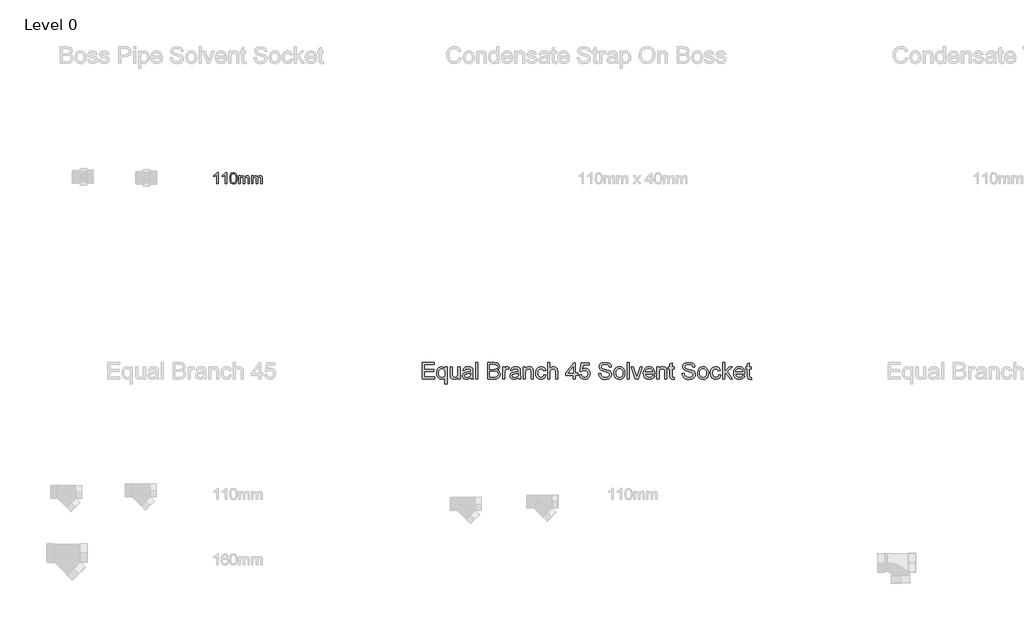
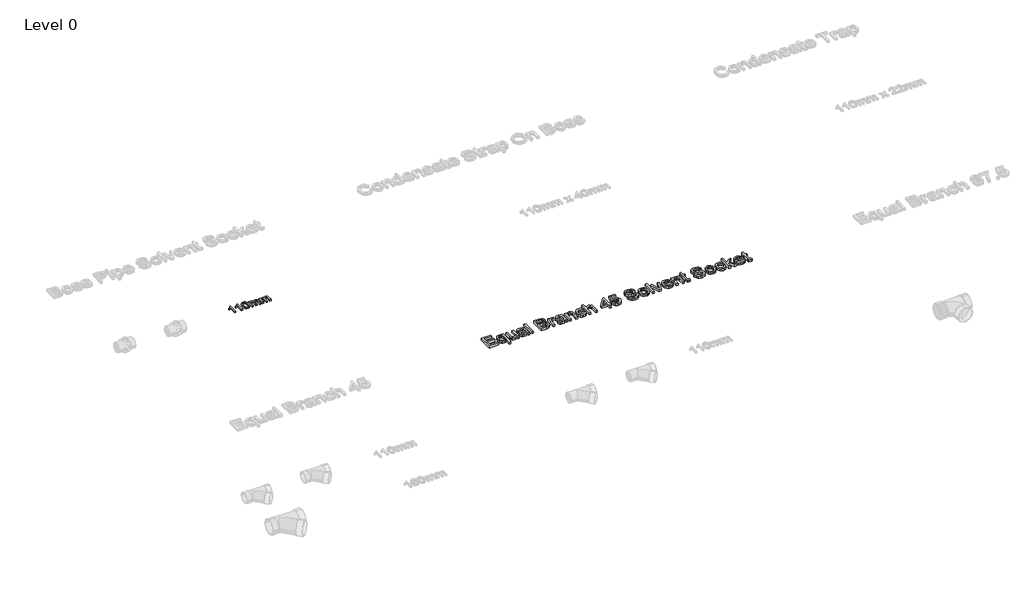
# One storey, part 17 of 28: 2 proxies.
"""IFC4 building model written with IfcOpenShell, lengths in millimetres."""

from ifc_helpers import new_model, si_unit, origin, origin_with_axes, place, context, project, spatial, polyline, outline, extrude, element, save

model = new_model("IFC4")

# Units and contexts
model_context = context("Model", 3, world=origin())
ifc_project = project(units=[si_unit("LENGTHUNIT", "METRE", prefix="MILLI")], contexts=[model_context])

# Site, building, storey
site = spatial("IfcSite", under=ifc_project)
building = spatial("IfcBuilding", under=site)
storey = spatial("IfcBuildingStorey", under=building, Name="Level 0", Elevation=0.0)

# Proxies
placement = place(None, origin())
element("IfcBuildingElementProxy", 1, Name="100mm Arial", ObjectType="100mm Arial", at=placement, inside=storey, context=model_context, shape_type="SweptSolid", body=[
    extrude(outline(polyline([(-13791.7293188, 5437.7167304), (-13804.0370111, 5437.7167304), (-13804.0370111, 5514.4474996), (-13815.6956649, 5506.1422111), (-13828.6523957, 5499.9282688), (-13828.6523957, 5511.5628842), (-13810.6115303, 5523.0773073), (-13799.6620111, 5536.1782688), (-13791.7293188, 5536.1782688), (-13791.7293188, 5437.7167304)])), origin_with_axes(), (0.0, 0.0, 1.0), 15.0),
    extrude(outline(polyline([(-13716.3447034, 5437.7167304), (-13728.6523957, 5437.7167304), (-13728.6523957, 5514.4474996), (-13740.3110495, 5506.1422111), (-13753.2677803, 5499.9282688), (-13753.2677803, 5511.5628842), (-13735.2269149, 5523.0773073), (-13724.2773957, 5536.1782688), (-13716.3447034, 5536.1782688), (-13716.3447034, 5437.7167304)])), origin_with_axes(), (0.0, 0.0, 1.0), 15.0),
    extrude(outline(polyline([(-13687.1139341, 5486.1542304), (-13683.4961457, 5514.4835573), (-13672.7509534, 5530.8176919), (-13654.8062418, 5536.1782688), (-13640.4312418, 5533.0051919), (-13630.5033572, 5523.8585573), (-13624.7341264, 5509.2912496), (-13622.4985495, 5486.1542304), (-13626.0802803, 5457.9450958), (-13636.7894149, 5441.5749035), (-13654.8062418, 5436.1782688), (-13667.5947034, 5438.5220188), (-13677.3062418, 5445.5532688), (-13684.6620111, 5462.2059131), (-13687.1139341, 5486.1542304)]), holes=[polyline([(-13674.8062418, 5486.1782688), (-13673.3639341, 5466.8182929), (-13669.0370111, 5455.613365), (-13662.5947034, 5450.2678121), (-13654.8062418, 5448.4859611), (-13647.0177803, 5450.2738217), (-13640.5754726, 5455.6374035), (-13636.2485495, 5466.848341), (-13634.8062418, 5486.1782688), (-13636.2004726, 5505.1025477), (-13640.3831649, 5516.394615), (-13646.8134534, 5522.0015861), (-13654.9504726, 5523.8705765), (-13662.6547995, 5522.2239419), (-13668.8447034, 5517.2840381), (-13673.3158572, 5505.2888458), (-13674.8062418, 5486.1782688)])]), origin_with_axes(), (0.0, 0.0, 1.0), 15.0),
    extrude(outline(polyline([(-13608.6523957, 5437.7167304), (-13608.6523957, 5510.0244227), (-13596.3447034, 5510.0244227), (-13596.3447034, 5498.1253842), (-13587.8831649, 5507.8729804), (-13575.8398957, 5511.5628842), (-13563.5081649, 5507.800865), (-13556.7293188, 5497.2599996), (-13547.1259534, 5507.9871631), (-13534.9985495, 5511.5628842), (-13525.7467466, 5510.0755044), (-13518.9047995, 5505.613365), (-13514.6770351, 5498.0562736), (-13513.2677803, 5487.2840381), (-13513.2677803, 5437.7167304), (-13525.5754726, 5437.7167304), (-13525.5754726, 5481.9955765), (-13526.7172995, 5492.2720188), (-13530.8519149, 5497.332115), (-13537.8831649, 5499.2551919), (-13549.9865303, 5494.3273073), (-13554.8062418, 5478.5340381), (-13554.8062418, 5437.7167304), (-13567.1139341, 5437.7167304), (-13567.1139341, 5483.3657688), (-13569.9624918, 5495.2888458), (-13579.3014341, 5499.2551919), (-13588.4120111, 5496.6109611), (-13594.4697034, 5488.8705765), (-13596.3447034, 5474.1830765), (-13596.3447034, 5437.7167304), (-13608.6523957, 5437.7167304)])), origin_with_axes(), (0.0, 0.0, 1.0), 15.0),
    extrude(outline(polyline([(-13494.8062418, 5437.7167304), (-13494.8062418, 5510.0244227), (-13482.4985495, 5510.0244227), (-13482.4985495, 5498.1253842), (-13474.0370111, 5507.8729804), (-13461.9937418, 5511.5628842), (-13449.6620111, 5507.800865), (-13442.8831649, 5497.2599996), (-13433.2797995, 5507.9871631), (-13421.1523957, 5511.5628842), (-13411.9005928, 5510.0755044), (-13405.0586457, 5505.613365), (-13400.8308813, 5498.0562736), (-13399.4216264, 5487.2840381), (-13399.4216264, 5437.7167304), (-13411.7293188, 5437.7167304), (-13411.7293188, 5481.9955765), (-13412.8711457, 5492.2720188), (-13417.0057611, 5497.332115), (-13424.0370111, 5499.2551919), (-13436.1403764, 5494.3273073), (-13440.960088, 5478.5340381), (-13440.960088, 5437.7167304), (-13453.2677803, 5437.7167304), (-13453.2677803, 5483.3657688), (-13456.116338, 5495.2888458), (-13465.4552803, 5499.2551919), (-13474.5658572, 5496.6109611), (-13480.6235495, 5488.8705765), (-13482.4985495, 5474.1830765), (-13482.4985495, 5437.7167304), (-13494.8062418, 5437.7167304)])), origin_with_axes(), (0.0, 0.0, 1.0), 15.0),
])
element("IfcBuildingElementProxy", 2, Name="150mm Arial", ObjectType="150mm Arial", at=placement, inside=storey, context=model_context, shape_type="SweptSolid", body=[
    extrude(outline(polyline([(-11981.7587589, 3705.2145219), (-11981.7587589, 3852.9068296), (-11875.6049127, 3852.9068296), (-11875.6049127, 3834.4452911), (-11963.2972204, 3834.4452911), (-11963.2972204, 3790.5991373), (-11880.2202973, 3790.5991373), (-11880.2202973, 3772.1375988), (-11963.2972204, 3772.1375988), (-11963.2972204, 3723.6760604), (-11873.2972204, 3723.6760604), (-11873.2972204, 3705.2145219), (-11981.7587589, 3705.2145219)])), origin_with_axes(), (0.0, 0.0, 1.0), 25.0),
    extrude(outline(polyline([(-11780.9895281, 3663.6760604), (-11780.9895281, 3719.9981758), (-11792.7082781, 3707.7746181), (-11808.7178935, 3702.9068296), (-11826.2689752, 3706.7514811), (-11841.2058743, 3718.2854354), (-11851.42823, 3736.5171061), (-11854.835682, 3760.4549065), (-11849.4270281, 3789.697695), (-11842.8014272, 3801.0738969), (-11833.741932, 3809.3130796), (-11822.9696964, 3814.3160844), (-11811.2058743, 3815.9837527), (-11794.0424127, 3810.8094738), (-11780.9895281, 3795.2866373), (-11780.9895281, 3813.6760604), (-11762.5279897, 3813.6760604), (-11762.5279897, 3663.6760604), (-11780.9895281, 3663.6760604)]), holes=[polyline([(-11836.3741435, 3759.4452911), (-11834.296319, 3742.7866373), (-11828.0628454, 3730.8875988), (-11818.9267276, 3723.7481758), (-11808.1409704, 3721.3683681), (-11797.8059344, 3723.6309883), (-11789.0123647, 3730.4188488), (-11782.9952372, 3741.8311085), (-11780.9895281, 3757.9669258), (-11783.1034103, 3775.2160243), (-11789.445057, 3787.58832), (-11798.6352613, 3795.0387407), (-11809.2948166, 3797.5222142), (-11819.7560546, 3795.2100147), (-11828.4955377, 3788.2734161), (-11834.4044921, 3776.4419859), (-11836.3741435, 3759.4452911)])]), origin_with_axes(), (0.0, 0.0, 1.0), 25.0),
    extrude(outline(polyline([(-11665.6049127, 3705.2145219), (-11665.6049127, 3723.8563488), (-11680.0640473, 3708.1442094), (-11698.9222204, 3702.9068296), (-11716.2839993, 3706.5847142), (-11728.2551531, 3715.8154835), (-11733.7539512, 3729.4092335), (-11734.835682, 3746.572695), (-11734.835682, 3813.6760604), (-11716.3741435, 3813.6760604), (-11716.3741435, 3755.2625988), (-11715.256355, 3736.4404835), (-11707.9546723, 3725.3888008), (-11694.1986627, 3721.3683681), (-11678.7839993, 3725.478945), (-11668.5977012, 3736.6748585), (-11665.6049127, 3757.2457719), (-11665.6049127, 3813.6760604), (-11647.1433743, 3813.6760604), (-11647.1433743, 3705.2145219), (-11665.6049127, 3705.2145219)])), origin_with_axes(), (0.0, 0.0, 1.0), 25.0),
    extrude(outline(polyline([(-11552.5279897, 3719.0606758), (-11570.4306339, 3706.5486565), (-11590.2082781, 3702.9068296), (-11605.6364632, 3705.0973344), (-11617.0171723, 3711.6688488), (-11624.0349007, 3721.6478152), (-11626.3741435, 3734.0606758), (-11622.8404897, 3748.6640411), (-11613.5556339, 3759.2650027), (-11600.6289512, 3765.322695), (-11584.6553935, 3768.0991373), (-11552.6361627, 3774.4452911), (-11552.5279897, 3778.5558681), (-11553.7990233, 3786.7950508), (-11557.6121243, 3792.1856758), (-11566.1397685, 3796.1880796), (-11578.0207781, 3797.5222142), (-11596.6986627, 3793.9705315), (-11605.6049127, 3781.3683681), (-11624.0664512, 3783.6760604), (-11616.0796723, 3801.7049065), (-11599.9979416, 3812.2698104), (-11575.6409704, 3815.9837527), (-11553.2671723, 3812.7025027), (-11540.6289512, 3804.46332), (-11534.9678935, 3791.9332719), (-11534.0664512, 3775.7794258), (-11534.0664512, 3752.8106758), (-11533.1289512, 3720.7373585), (-11529.4510666, 3705.2145219), (-11547.912605, 3705.2145219), (-11552.5279897, 3719.0606758)]), holes=[polyline([(-11552.5279897, 3755.9837527), (-11582.3116435, 3750.322695), (-11598.195057, 3747.3299065), (-11605.3885666, 3742.4621181), (-11607.912605, 3735.3587527), (-11602.413807, 3725.3707719), (-11586.2779897, 3721.3683681), (-11567.600105, 3725.7854354), (-11555.5568358, 3736.4765411), (-11552.6361627, 3750.7553873), (-11552.5279897, 3755.9837527)])]), origin_with_axes(), (0.0, 0.0, 1.0), 25.0),
    extrude(outline(polyline([(-11508.6818358, 3705.2145219), (-11508.6818358, 3852.9068296), (-11490.2202973, 3852.9068296), (-11490.2202973, 3705.2145219), (-11508.6818358, 3705.2145219)])), origin_with_axes(), (0.0, 0.0, 1.0), 25.0),
    extrude(outline(polyline([(-11402.5279897, 3705.2145219), (-11402.5279897, 3852.9068296), (-11346.1698166, 3852.9068296), (-11318.5676531, 3848.5618777), (-11309.2918118, 3843.049558), (-11302.2695762, 3835.2025027), (-11296.3741435, 3816.3082719), (-11301.3320762, 3799.0546661), (-11316.3140473, 3785.9837527), (-11305.8528094, 3780.5210123), (-11298.1229416, 3772.2097142), (-11293.3498046, 3761.5997383), (-11291.7587589, 3749.2409642), (-11296.1037108, 3729.3912046), (-11306.866932, 3715.2565892), (-11322.9306339, 3707.7565892), (-11346.6025089, 3705.2145219), (-11402.5279897, 3705.2145219)]), holes=[polyline([(-11384.0664512, 3723.6760604), (-11346.2058743, 3723.6760604), (-11332.5039512, 3724.3972142), (-11320.9114031, 3728.4176469), (-11313.2311147, 3736.6207719), (-11310.2202973, 3749.0606758), (-11313.7539512, 3763.4116373), (-11325.2022685, 3771.9753392), (-11348.0087589, 3774.4452911), (-11384.0664512, 3774.4452911), (-11384.0664512, 3723.6760604)]), polyline([(-11384.0664512, 3792.9068296), (-11350.3525089, 3792.9068296), (-11330.6650089, 3794.4933681), (-11318.820057, 3801.3263008), (-11314.835682, 3813.3515411), (-11318.5496243, 3825.3948104), (-11329.1866435, 3832.5162046), (-11352.912605, 3834.4452911), (-11384.0664512, 3834.4452911), (-11384.0664512, 3792.9068296)])]), origin_with_axes(), (0.0, 0.0, 1.0), 25.0),
    extrude(outline(polyline([(-11268.6818358, 3705.2145219), (-11268.6818358, 3813.6760604), (-11252.5279897, 3813.6760604), (-11252.5279897, 3797.6303873), (-11241.0616435, 3812.4140411), (-11229.523182, 3815.9837527), (-11210.9895281, 3810.2866373), (-11217.1553935, 3793.7361565), (-11230.1361627, 3797.5222142), (-11240.5748647, 3793.8803873), (-11247.2275089, 3783.7842335), (-11250.2202973, 3762.2217335), (-11250.2202973, 3705.2145219), (-11268.6818358, 3705.2145219)])), origin_with_axes(), (0.0, 0.0, 1.0), 25.0),
    extrude(outline(polyline([(-11130.2202973, 3719.0606758), (-11148.1229416, 3706.5486565), (-11167.9005858, 3702.9068296), (-11183.3287709, 3705.0973344), (-11194.70948, 3711.6688488), (-11201.7272084, 3721.6478152), (-11204.0664512, 3734.0606758), (-11200.5327973, 3748.6640411), (-11191.2479416, 3759.2650027), (-11178.3212589, 3765.322695), (-11162.3477012, 3768.0991373), (-11130.3284704, 3774.4452911), (-11130.2202973, 3778.5558681), (-11131.491331, 3786.7950508), (-11135.304432, 3792.1856758), (-11143.8320762, 3796.1880796), (-11155.7130858, 3797.5222142), (-11174.3909704, 3793.9705315), (-11183.2972204, 3781.3683681), (-11201.7587589, 3783.6760604), (-11193.77198, 3801.7049065), (-11177.6902493, 3812.2698104), (-11153.3332781, 3815.9837527), (-11130.95948, 3812.7025027), (-11118.3212589, 3804.46332), (-11112.6602012, 3791.9332719), (-11111.7587589, 3775.7794258), (-11111.7587589, 3752.8106758), (-11110.8212589, 3720.7373585), (-11107.1433743, 3705.2145219), (-11125.6049127, 3705.2145219), (-11130.2202973, 3719.0606758)]), holes=[polyline([(-11130.2202973, 3755.9837527), (-11160.0039512, 3750.322695), (-11175.8873647, 3747.3299065), (-11183.0808743, 3742.4621181), (-11185.6049127, 3735.3587527), (-11180.1061147, 3725.3707719), (-11163.9702973, 3721.3683681), (-11145.2924127, 3725.7854354), (-11133.2491435, 3736.4765411), (-11130.3284704, 3750.7553873), (-11130.2202973, 3755.9837527)])]), origin_with_axes(), (0.0, 0.0, 1.0), 25.0),
    extrude(outline(polyline([(-11086.3741435, 3705.2145219), (-11086.3741435, 3813.6760604), (-11067.912605, 3813.6760604), (-11067.912605, 3798.5318296), (-11053.7960185, 3811.6207719), (-11034.523182, 3815.9837527), (-11017.0892877, 3812.4681277), (-11005.1902493, 3803.2373585), (-10999.6553935, 3789.6616373), (-10998.6818358, 3771.8130796), (-10998.6818358, 3705.2145219), (-11017.1433743, 3705.2145219), (-11017.1433743, 3769.3250988), (-11019.2707781, 3785.6592335), (-11026.788807, 3794.2950508), (-11039.4630858, 3797.5222142), (-11050.2758863, 3795.7103152), (-11059.4931339, 3790.2746181), (-11065.8077372, 3779.7728152), (-11067.912605, 3762.7625988), (-11067.912605, 3705.2145219), (-11086.3741435, 3705.2145219)])), origin_with_axes(), (0.0, 0.0, 1.0), 25.0),
    extrude(outline(polyline([(-10904.0664512, 3744.4452911), (-10885.6049127, 3742.1375988), (-10890.7521483, 3725.7178272), (-10900.4246243, 3713.3094738), (-10913.7118839, 3705.5074907), (-10929.7034704, 3702.9068296), (-10949.3413911, 3706.5351349), (-10964.6974608, 3717.4200508), (-10974.608819, 3735.0838128), (-10977.912605, 3759.0486565), (-10972.2695762, 3789.7157238), (-10965.148182, 3801.2136205), (-10955.070057, 3809.4212527), (-10943.0132661, 3814.3431277), (-10929.9558743, 3815.9837527), (-10914.3564151, 3813.7301469), (-10901.8849608, 3806.9693296), (-10892.9381459, 3796.0618777), (-10887.912605, 3781.3683681), (-10906.3741435, 3779.0606758), (-10914.9378454, 3792.8888008), (-10929.8116435, 3797.5222142), (-10941.7422324, 3795.2415652), (-10951.2118839, 3788.3996181), (-10957.3912709, 3776.6267815), (-10959.4510666, 3759.5534642), (-10957.436343, 3742.2502791), (-10951.3921723, 3730.4368777), (-10942.0937949, 3723.6354955), (-10930.3164512, 3721.3683681), (-10920.7566555, 3722.7836325), (-10912.9186147, 3727.0294258), (-10907.2169921, 3734.213921), (-10904.0664512, 3744.4452911)])), origin_with_axes(), (0.0, 0.0, 1.0), 25.0),
    extrude(outline(polyline([(-10869.4510666, 3705.2145219), (-10869.4510666, 3852.9068296), (-10850.9895281, 3852.9068296), (-10850.9895281, 3798.603945), (-10836.5934945, 3811.6388008), (-10818.8621243, 3815.9837527), (-10798.1289512, 3811.2421661), (-10785.5448166, 3798.135195), (-10781.7587589, 3773.8683681), (-10781.7587589, 3705.2145219), (-10800.2202973, 3705.2145219), (-10800.2202973, 3771.9573104), (-10801.6896483, 3783.5138008), (-10806.0977012, 3791.4284642), (-10813.2010666, 3795.9987767), (-10822.756355, 3797.5222142), (-10837.882557, 3793.4116373), (-10847.9787108, 3782.2698104), (-10850.9895281, 3762.8347142), (-10850.9895281, 3705.2145219), (-10869.4510666, 3705.2145219)])), origin_with_axes(), (0.0, 0.0, 1.0), 25.0),
    extrude(outline(polyline([(-10643.2972204, 3705.2145219), (-10643.2972204, 3739.8299065), (-10710.2202973, 3739.8299065), (-10710.2202973, 3758.291445), (-10638.6818358, 3850.5991373), (-10624.835682, 3850.5991373), (-10624.835682, 3758.291445), (-10606.3741435, 3758.291445), (-10606.3741435, 3739.8299065), (-10624.835682, 3739.8299065), (-10624.835682, 3705.2145219), (-10643.2972204, 3705.2145219)]), holes=[polyline([(-10643.2972204, 3758.291445), (-10643.2972204, 3815.3347142), (-10687.5039512, 3758.291445), (-10643.2972204, 3758.291445)])]), origin_with_axes(), (0.0, 0.0, 1.0), 25.0),
    extrude(outline(polyline([(-10590.2202973, 3744.4452911), (-10571.7587589, 3746.7529835), (-10568.3693358, 3735.6697503), (-10562.4558743, 3727.7325508), (-10554.0454175, 3722.9594137), (-10543.1650089, 3721.3683681), (-10529.9318358, 3723.5814089), (-10520.0159704, 3730.2205315), (-10513.8230618, 3740.5195099), (-10511.7587589, 3753.7121181), (-10513.6923526, 3766.1339931), (-10519.4931339, 3775.635195), (-10529.2061747, 3781.665844), (-10542.8765473, 3783.6760604), (-10559.08448, 3780.4669258), (-10569.4510666, 3772.1375988), (-10587.912605, 3774.4452911), (-10571.7587589, 3850.5991373), (-10500.2202973, 3850.5991373), (-10500.2202973, 3832.1375988), (-10556.8308743, 3832.1375988), (-10564.7275089, 3791.4645219), (-10551.5394079, 3799.4693296), (-10537.7202973, 3802.1375988), (-10520.4711988, 3798.8293056), (-10506.1517877, 3788.9044258), (-10496.5108622, 3773.7782238), (-10493.2972204, 3754.8659642), (-10496.1908502, 3736.4044258), (-10504.8717397, 3720.6111565), (-10521.4943358, 3707.3329113), (-10543.2371243, 3702.9068296), (-10561.3696363, 3705.7508801), (-10575.8152493, 3714.2830315), (-10585.717593, 3727.5116974), (-10590.2202973, 3744.4452911)])), origin_with_axes(), (0.0, 0.0, 1.0), 25.0),
    extrude(outline(polyline([(-10419.4510666, 3755.9837527), (-10400.9895281, 3755.9837527), (-10395.0400089, 3737.5041854), (-10380.5087589, 3725.8214931), (-10358.3693358, 3721.3683681), (-10339.0784704, 3724.7397623), (-10326.6205377, 3734.0065892), (-10322.5279897, 3746.3924065), (-10325.5928935, 3757.9128392), (-10338.1409704, 3766.2962527), (-10365.02198, 3773.3455315), (-10393.9582781, 3782.4500988), (-10409.6614031, 3796.1880796), (-10414.835682, 3814.541445), (-10413.2356219, 3825.3542455), (-10408.4354416, 3835.4368777), (-10400.561343, 3843.9825508), (-10389.7395281, 3850.1844738), (-10362.3717397, 3855.2145219), (-10333.1650089, 3849.9500988), (-10321.9690954, 3843.4506998), (-10313.693855, 3834.4813488), (-10308.4564752, 3823.6009402), (-10306.3741435, 3811.3683681), (-10324.835682, 3811.3683681), (-10328.225105, 3822.3839931), (-10335.2924127, 3830.3347142), (-10346.335081, 3835.1484161), (-10361.6505858, 3836.7529835), (-10377.3266675, 3835.166445), (-10388.0808743, 3830.4068296), (-10394.3008262, 3823.4026229), (-10396.3741435, 3815.0823104), (-10394.9047925, 3807.9879594), (-10390.4967397, 3802.2818296), (-10360.3525089, 3791.9693296), (-10327.6842397, 3782.7025027), (-10317.1599007, 3776.0047863), (-10309.8176531, 3767.7385604), (-10304.0664512, 3746.8611565), (-10305.7205978, 3735.4804474), (-10310.6830377, 3724.77582), (-10318.7509464, 3715.5630796), (-10329.7214993, 3708.6580315), (-10357.648182, 3702.9068296), (-10375.7356219, 3704.4573104), (-10390.6229416, 3709.1087527), (-10402.4814151, 3716.8791854), (-10411.4823166, 3727.7866373), (-10417.2605618, 3741.0738969), (-10419.4510666, 3755.9837527)])), origin_with_axes(), (0.0, 0.0, 1.0), 25.0),
    extrude(outline(polyline([(-10283.2972204, 3759.4452911), (-10279.303831, 3785.5961325), (-10267.3236627, 3803.9765411), (-10252.52198, 3812.9819498), (-10234.7996243, 3815.9837527), (-10215.405093, 3812.3284041), (-10199.913807, 3801.3623585), (-10189.7590594, 3783.9510003), (-10186.3741435, 3760.9597142), (-10187.8705377, 3742.3088729), (-10192.3597204, 3728.1111565), (-10199.7109824, 3717.4786445), (-10209.7936147, 3709.5234161), (-10221.7692757, 3704.5609762), (-10234.7996243, 3702.9068296), (-10254.4285305, 3706.5486565), (-10269.9017877, 3717.4741373), (-10279.9483622, 3735.2505796), (-10283.2972204, 3759.4452911)]), holes=[polyline([(-10264.835682, 3759.4813488), (-10262.6992637, 3742.7731157), (-10256.2900089, 3730.86957), (-10246.6445762, 3723.7436686), (-10234.7996243, 3721.3683681), (-10223.0087589, 3723.7571902), (-10213.381355, 3730.9236565), (-10206.9721002, 3742.9849546), (-10204.835682, 3760.0582719), (-10206.9856219, 3776.2797262), (-10213.4354416, 3788.0210123), (-10223.0763671, 3795.1469137), (-10234.7996243, 3797.5222142), (-10246.6445762, 3795.1559282), (-10256.2900089, 3788.05707), (-10262.6992637, 3776.1805676), (-10264.835682, 3759.4813488)])]), origin_with_axes(), (0.0, 0.0, 1.0), 25.0),
    extrude(outline(polyline([(-10165.6049127, 3705.2145219), (-10165.6049127, 3852.9068296), (-10147.1433743, 3852.9068296), (-10147.1433743, 3705.2145219), (-10165.6049127, 3705.2145219)])), origin_with_axes(), (0.0, 0.0, 1.0), 25.0),
    extrude(outline(polyline([(-10092.8404897, 3705.2145219), (-10130.9895281, 3813.6760604), (-10111.4462589, 3813.6760604), (-10088.3332781, 3748.7000988), (-10081.3741435, 3726.8491373), (-10074.5592397, 3747.4741373), (-10051.3020281, 3813.6760604), (-10031.7587589, 3813.6760604), (-10069.4390473, 3705.2145219), (-10092.8404897, 3705.2145219)])), origin_with_axes(), (0.0, 0.0, 1.0), 25.0),
    extrude(outline(polyline([(-9939.6674127, 3737.5222142), (-9921.5664512, 3735.2145219), (-9928.0883863, 3721.5756998), (-9938.4955377, 3711.3803873), (-9952.5535305, 3705.025219), (-9970.0279897, 3702.9068296), (-9991.6896483, 3706.5621782), (-10008.3573166, 3717.5282238), (-10018.9853214, 3735.0928272), (-10022.5279897, 3758.5438488), (-10018.9492637, 3782.7836325), (-10008.2130858, 3800.9116373), (-9991.7707781, 3812.2157238), (-9971.0736627, 3815.9837527), (-9951.0210786, 3812.2247383), (-9934.9979416, 3800.947695), (-9924.4916315, 3782.8557479), (-9920.9895281, 3758.6520219), (-9921.0977012, 3753.6760604), (-10004.0664512, 3753.6760604), (-10000.8708382, 3739.8569498), (-9993.4474608, 3729.697695), (-9982.733819, 3723.4506998), (-9969.6674127, 3721.3683681), (-9951.5664512, 3725.2265411), (-9939.6674127, 3737.5222142)]), holes=[polyline([(-10004.0664512, 3772.1375988), (-9939.4510666, 3772.1375988), (-9941.9480618, 3781.8912046), (-9946.8428935, 3788.8683681), (-9957.6061147, 3795.3587527), (-9971.1457781, 3797.5222142), (-9983.5901892, 3795.7959522), (-9993.8801531, 3790.6171661), (-10001.0330978, 3782.5447503), (-10004.0664512, 3772.1375988)])]), origin_with_axes(), (0.0, 0.0, 1.0), 25.0),
    extrude(outline(polyline([(-9902.5279897, 3705.2145219), (-9902.5279897, 3813.6760604), (-9884.0664512, 3813.6760604), (-9884.0664512, 3798.5318296), (-9869.9498647, 3811.6207719), (-9850.6770281, 3815.9837527), (-9833.2431339, 3812.4681277), (-9821.3440954, 3803.2373585), (-9815.8092397, 3789.6616373), (-9814.835682, 3771.8130796), (-9814.835682, 3705.2145219), (-9833.2972204, 3705.2145219), (-9833.2972204, 3769.3250988), (-9835.4246243, 3785.6592335), (-9842.9426531, 3794.2950508), (-9855.616932, 3797.5222142), (-9866.4297324, 3795.7103152), (-9875.64698, 3790.2746181), (-9881.9615834, 3779.7728152), (-9884.0664512, 3762.7625988), (-9884.0664512, 3705.2145219), (-9902.5279897, 3705.2145219)])), origin_with_axes(), (0.0, 0.0, 1.0), 25.0),
    extrude(outline(polyline([(-9750.2202973, 3720.6111565), (-9747.912605, 3704.6736565), (-9761.7227012, 3702.9068296), (-9777.1914512, 3705.9717335), (-9784.9077973, 3714.0125988), (-9787.1433743, 3734.9621181), (-9787.1433743, 3795.2145219), (-9800.9895281, 3795.2145219), (-9800.9895281, 3813.6760604), (-9787.1433743, 3813.6760604), (-9787.1433743, 3840.0342335), (-9768.6818358, 3850.8875988), (-9768.6818358, 3813.6760604), (-9750.2202973, 3813.6760604), (-9750.2202973, 3795.2145219), (-9768.6818358, 3795.2145219), (-9768.6818358, 3735.5029835), (-9767.7082781, 3725.9837527), (-9764.55323, 3722.6123585), (-9758.2611627, 3721.3683681), (-9750.2202973, 3720.6111565)])), origin_with_axes(), (0.0, 0.0, 1.0), 25.0),
    extrude(outline(polyline([(-9678.6818358, 3755.9837527), (-9660.2202973, 3755.9837527), (-9654.2707781, 3737.5041854), (-9639.7395281, 3725.8214931), (-9617.600105, 3721.3683681), (-9598.3092397, 3724.7397623), (-9585.851307, 3734.0065892), (-9581.7587589, 3746.3924065), (-9584.8236627, 3757.9128392), (-9597.3717397, 3766.2962527), (-9624.2527493, 3773.3455315), (-9653.1890473, 3782.4500988), (-9668.8921723, 3796.1880796), (-9674.0664512, 3814.541445), (-9672.4663911, 3825.3542455), (-9667.6662108, 3835.4368777), (-9659.7921122, 3843.9825508), (-9648.9702973, 3850.1844738), (-9621.6025089, 3855.2145219), (-9592.3957781, 3849.9500988), (-9581.1998647, 3843.4506998), (-9572.9246243, 3834.4813488), (-9567.6872445, 3823.6009402), (-9565.6049127, 3811.3683681), (-9584.0664512, 3811.3683681), (-9587.4558743, 3822.3839931), (-9594.523182, 3830.3347142), (-9605.5658502, 3835.1484161), (-9620.881355, 3836.7529835), (-9636.5574368, 3835.166445), (-9647.3116435, 3830.4068296), (-9653.5315954, 3823.4026229), (-9655.6049127, 3815.0823104), (-9654.1355618, 3807.9879594), (-9649.7275089, 3802.2818296), (-9619.5832781, 3791.9693296), (-9586.9150089, 3782.7025027), (-9576.3906699, 3776.0047863), (-9569.0484223, 3767.7385604), (-9563.2972204, 3746.8611565), (-9564.9513671, 3735.4804474), (-9569.913807, 3724.77582), (-9577.9817156, 3715.5630796), (-9588.9522685, 3708.6580315), (-9616.8789512, 3702.9068296), (-9634.9663911, 3704.4573104), (-9649.8537108, 3709.1087527), (-9661.7121844, 3716.8791854), (-9670.7130858, 3727.7866373), (-9676.491331, 3741.0738969), (-9678.6818358, 3755.9837527)])), origin_with_axes(), (0.0, 0.0, 1.0), 25.0),
    extrude(outline(polyline([(-9542.5279897, 3759.4452911), (-9538.5346002, 3785.5961325), (-9526.554432, 3803.9765411), (-9511.7527493, 3812.9819498), (-9494.0303935, 3815.9837527), (-9474.6358622, 3812.3284041), (-9459.1445762, 3801.3623585), (-9448.9898286, 3783.9510003), (-9445.6049127, 3760.9597142), (-9447.101307, 3742.3088729), (-9451.5904897, 3728.1111565), (-9458.9417517, 3717.4786445), (-9469.0243839, 3709.5234161), (-9481.0000449, 3704.5609762), (-9494.0303935, 3702.9068296), (-9513.6592997, 3706.5486565), (-9529.132557, 3717.4741373), (-9539.1791315, 3735.2505796), (-9542.5279897, 3759.4452911)]), holes=[polyline([(-9524.0664512, 3759.4813488), (-9521.9300329, 3742.7731157), (-9515.5207781, 3730.86957), (-9505.8753454, 3723.7436686), (-9494.0303935, 3721.3683681), (-9482.2395281, 3723.7571902), (-9472.6121243, 3730.9236565), (-9466.2028695, 3742.9849546), (-9464.0664512, 3760.0582719), (-9466.2163911, 3776.2797262), (-9472.6662108, 3788.0210123), (-9482.3071363, 3795.1469137), (-9494.0303935, 3797.5222142), (-9505.8753454, 3795.1559282), (-9515.5207781, 3788.05707), (-9521.9300329, 3776.1805676), (-9524.0664512, 3759.4813488)])]), origin_with_axes(), (0.0, 0.0, 1.0), 25.0),
    extrude(outline(polyline([(-9355.6049127, 3744.4452911), (-9337.1433743, 3742.1375988), (-9342.2906098, 3725.7178272), (-9351.9630858, 3713.3094738), (-9365.2503454, 3705.5074907), (-9381.241932, 3702.9068296), (-9400.8798526, 3706.5351349), (-9416.2359223, 3717.4200508), (-9426.1472805, 3735.0838128), (-9429.4510666, 3759.0486565), (-9423.8080377, 3789.7157238), (-9416.6866435, 3801.2136205), (-9406.6085185, 3809.4212527), (-9394.5517276, 3814.3431277), (-9381.4943358, 3815.9837527), (-9365.8948767, 3813.7301469), (-9353.4234223, 3806.9693296), (-9344.4766074, 3796.0618777), (-9339.4510666, 3781.3683681), (-9357.912605, 3779.0606758), (-9366.476307, 3792.8888008), (-9381.350105, 3797.5222142), (-9393.280694, 3795.2415652), (-9402.7503454, 3788.3996181), (-9408.9297324, 3776.6267815), (-9410.9895281, 3759.5534642), (-9408.9748046, 3742.2502791), (-9402.9306339, 3730.4368777), (-9393.6322565, 3723.6354955), (-9381.8549127, 3721.3683681), (-9372.2951171, 3722.7836325), (-9364.4570762, 3727.0294258), (-9358.7554536, 3734.213921), (-9355.6049127, 3744.4452911)])), origin_with_axes(), (0.0, 0.0, 1.0), 25.0),
    extrude(outline(polyline([(-9320.9895281, 3705.2145219), (-9320.9895281, 3852.9068296), (-9302.5279897, 3852.9068296), (-9302.5279897, 3773.5438488), (-9261.1337589, 3813.6760604), (-9235.6049127, 3813.6760604), (-9277.5039512, 3773.0390411), (-9233.2972204, 3705.2145219), (-9254.8597204, 3705.2145219), (-9290.7371243, 3760.2025027), (-9302.5279897, 3748.7722142), (-9302.5279897, 3705.2145219), (-9320.9895281, 3705.2145219)])), origin_with_axes(), (0.0, 0.0, 1.0), 25.0),
    extrude(outline(polyline([(-9141.2058743, 3737.5222142), (-9123.1049127, 3735.2145219), (-9129.6268478, 3721.5756998), (-9140.0339993, 3711.3803873), (-9154.0919921, 3705.025219), (-9171.5664512, 3702.9068296), (-9193.2281098, 3706.5621782), (-9209.8957781, 3717.5282238), (-9220.5237829, 3735.0928272), (-9224.0664512, 3758.5438488), (-9220.4877252, 3782.7836325), (-9209.7515473, 3800.9116373), (-9193.3092397, 3812.2157238), (-9172.6121243, 3815.9837527), (-9152.5595401, 3812.2247383), (-9136.5364031, 3800.947695), (-9126.030093, 3782.8557479), (-9122.5279897, 3758.6520219), (-9122.6361627, 3753.6760604), (-9205.6049127, 3753.6760604), (-9202.4092997, 3739.8569498), (-9194.9859223, 3729.697695), (-9184.2722805, 3723.4506998), (-9171.2058743, 3721.3683681), (-9153.1049127, 3725.2265411), (-9141.2058743, 3737.5222142)]), holes=[polyline([(-9205.6049127, 3772.1375988), (-9140.9895281, 3772.1375988), (-9143.4865233, 3781.8912046), (-9148.381355, 3788.8683681), (-9159.1445762, 3795.3587527), (-9172.6842397, 3797.5222142), (-9185.1286507, 3795.7959522), (-9195.4186147, 3790.6171661), (-9202.5715594, 3782.5447503), (-9205.6049127, 3772.1375988)])]), origin_with_axes(), (0.0, 0.0, 1.0), 25.0),
    extrude(outline(polyline([(-9064.835682, 3720.6111565), (-9062.5279897, 3704.6736565), (-9076.3380858, 3702.9068296), (-9091.8068358, 3705.9717335), (-9099.523182, 3714.0125988), (-9101.7587589, 3734.9621181), (-9101.7587589, 3795.2145219), (-9115.6049127, 3795.2145219), (-9115.6049127, 3813.6760604), (-9101.7587589, 3813.6760604), (-9101.7587589, 3840.0342335), (-9083.2972204, 3850.8875988), (-9083.2972204, 3813.6760604), (-9064.835682, 3813.6760604), (-9064.835682, 3795.2145219), (-9083.2972204, 3795.2145219), (-9083.2972204, 3735.5029835), (-9082.3236627, 3725.9837527), (-9079.1686147, 3722.6123585), (-9072.8765473, 3721.3683681), (-9064.835682, 3720.6111565)])), origin_with_axes(), (0.0, 0.0, 1.0), 25.0),
])

save(model, "model.ifc")
